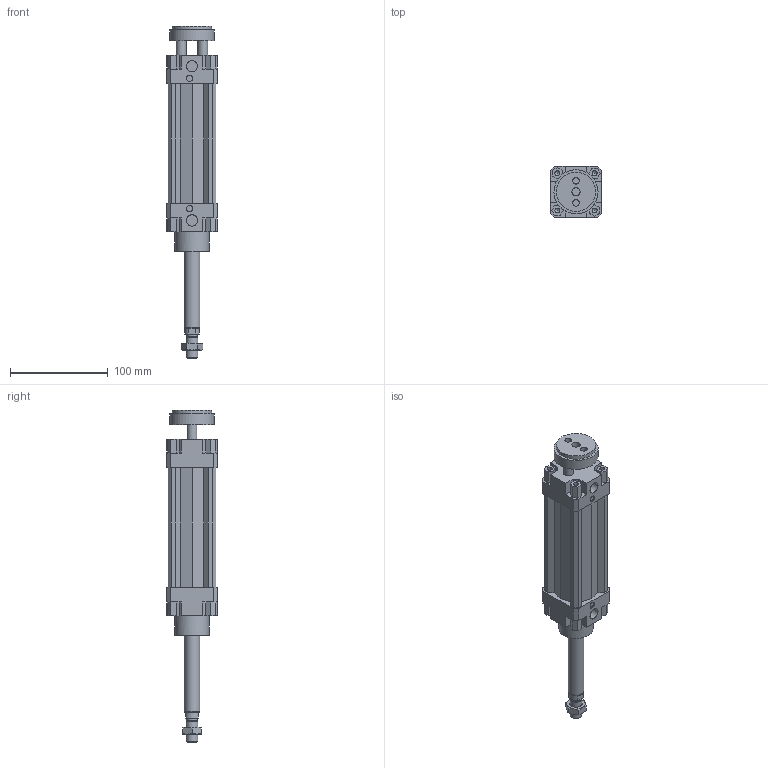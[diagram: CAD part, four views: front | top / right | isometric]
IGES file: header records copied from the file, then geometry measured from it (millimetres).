
Global section: file name: 132#_040_0075_02; native system: Autodesk Inventor 2014; preprocessor: unknown; author: A. Manieri; date: 20161006.154801; units: millimetre
Bounding box: 52 x 52 x 339 mm (x, y, z)
Volume: 356944.6 mm3; surface area: 104493.9 mm2
Topology: 3 solids, 3 shells, 220 faces, 590 edges, 398 vertices
Faces by surface type: bspline 220
